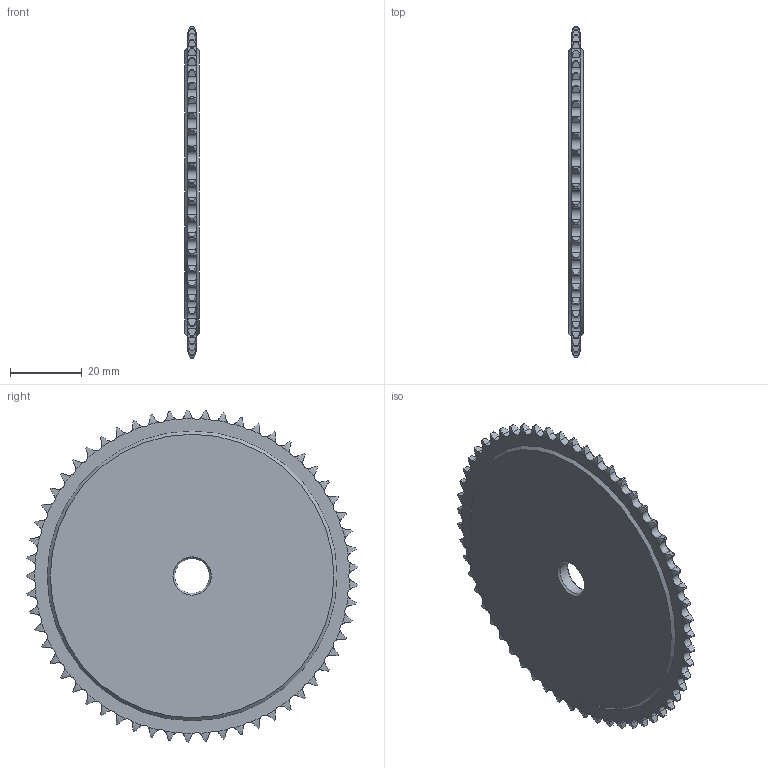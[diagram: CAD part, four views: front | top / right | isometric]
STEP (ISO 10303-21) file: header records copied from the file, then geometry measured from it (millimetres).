
FILE_DESCRIPTION(/* description */ (''),/* implementation_level */ '2;1');
FILE_NAME(/* name */ 'C:\Users\stagistaCAD\Desktop\20105057.stp',/* time_stamp */ '2018-06-27T10:24:36+02:00',/* author */ ('stagistacad'),/* organization */ (''),/* preprocessor_version */ 'ST-DEVELOPER v15.6',/* originating_system */ 'Autodesk Inventor 2015',/* authorisation */ '');
FILE_SCHEMA (('AUTOMOTIVE_DESIGN { 1 0 10303 214 3 1 1 }'));
Length unit declared in the file: millimetre
Products named in the file (1): 20105057
Bounding box: 4 x 92.8 x 92.84 mm (x, y, z)
Volume: 22698.9 mm3; surface area: 13609.6 mm2
Topology: 1 solids, 1 shells, 351 faces, 1039 edges, 692 vertices
Faces by surface type: cylinder 229, torus 114, plane 4, cone 4
Full cylindrical faces by diameter (mm): 9.7 x1
Entity records: 13250 total; most frequent: CARTESIAN_POINT 4410, ORIENTED_EDGE 2068, DIRECTION 1632, EDGE_CURVE 1034, AXIS2_PLACEMENT_3D 702, VERTEX_POINT 692, B_SPLINE_CURVE_WITH_KNOTS 456, EDGE_LOOP 360
